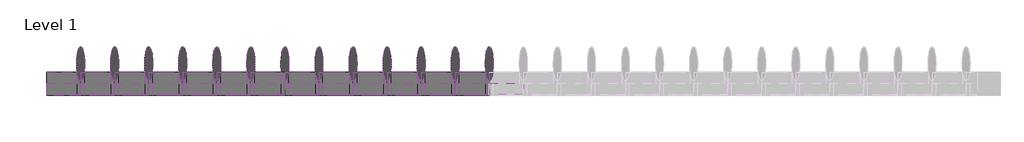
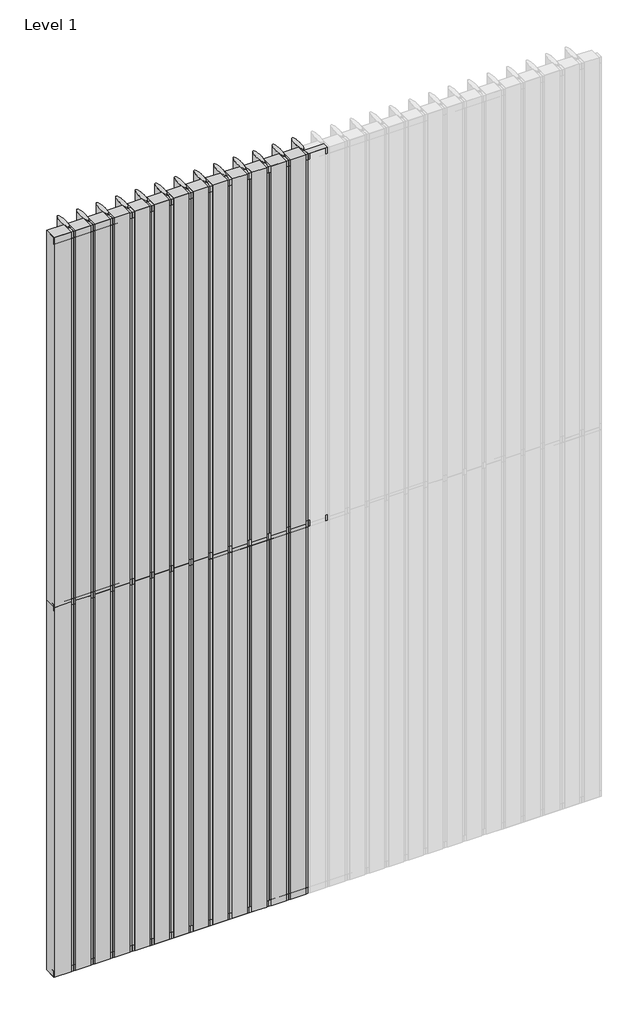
# One storey, part 1 of 3: 67 members, 52 plates.
"""IFC4 building model written with IfcOpenShell, lengths in millimetres."""

from ifc_helpers import new_model, si_unit, origin, place, context, project, spatial, transform, mapped, element, save
from components import rectangular_mullion_822d50ae, rectangular_mullion_6265e8b1, rectangular_mullion_64cc6fdd, rectangular_mullion_eb4a5411, empty_system_panel_empty_b0baf43e, empty_system_panel_empty_d245318e, empty_system_panel_empty_64907904

model = new_model("IFC4")

# Units and contexts
model_context = context("Model", 3, world=origin())
ifc_project = project(units=[si_unit("LENGTHUNIT", "METRE", prefix="MILLI")], contexts=[model_context])

# Site, building, storey
site = spatial("IfcSite", under=ifc_project)
building = spatial("IfcBuilding", under=site)
storey = spatial("IfcBuildingStorey", under=building, Name="Level 1", Elevation=0.0)

# Members
placement = place(None, origin())
rectangular_mullion_shape = rectangular_mullion_822d50ae(model_context)
element("IfcMember", 1, ObjectType="Rectangular Mullion : RSen_21_CWM_blade - 150 ellips - 0°_gen_duco projects", at=placement, inside=storey, context=model_context, shape_type="MappedRepresentation", body=[
    mapped(rectangular_mullion_shape, transform((1950.0, 3000.0, 0.0), x_axis=(-1.0, 0.0, 0.0), y_axis=(0.0, 1.0, 0.0), z_axis=(0.0, 0.0, -1.0))),
])
element("IfcMember", 2, ObjectType="Rectangular Mullion : RSen_21_CWM_blade - 150 ellips - 0°_gen_duco projects", at=placement, inside=storey, context=model_context, shape_type="MappedRepresentation", body=[
    mapped(rectangular_mullion_shape, transform((1800.0, 3000.0, 0.0), x_axis=(-1.0, 0.0, 0.0), y_axis=(0.0, 1.0, 0.0), z_axis=(0.0, 0.0, -1.0))),
])
element("IfcMember", 3, ObjectType="Rectangular Mullion : RSen_21_CWM_blade - 150 ellips - 0°_gen_duco projects", at=placement, inside=storey, context=model_context, shape_type="MappedRepresentation", body=[
    mapped(rectangular_mullion_shape, transform((1650.0, 3000.0, 0.0), x_axis=(-1.0, 0.0, 0.0), y_axis=(0.0, 1.0, 0.0), z_axis=(0.0, 0.0, -1.0))),
])
element("IfcMember", 4, ObjectType="Rectangular Mullion : RSen_21_CWM_blade - 150 ellips - 0°_gen_duco projects", at=placement, inside=storey, context=model_context, shape_type="MappedRepresentation", body=[
    mapped(rectangular_mullion_shape, transform((1500.0, 3000.0, 0.0), x_axis=(-1.0, 0.0, 0.0), y_axis=(0.0, 1.0, 0.0), z_axis=(0.0, 0.0, -1.0))),
])
element("IfcMember", 5, ObjectType="Rectangular Mullion : RSen_21_CWM_blade - 150 ellips - 0°_gen_duco projects", at=placement, inside=storey, context=model_context, shape_type="MappedRepresentation", body=[
    mapped(rectangular_mullion_shape, transform((1350.0, 3000.0, 0.0), x_axis=(-1.0, 0.0, 0.0), y_axis=(0.0, 1.0, 0.0), z_axis=(0.0, 0.0, -1.0))),
])
element("IfcMember", 6, ObjectType="Rectangular Mullion : RSen_21_CWM_blade - 150 ellips - 0°_gen_duco projects", at=placement, inside=storey, context=model_context, shape_type="MappedRepresentation", body=[
    mapped(rectangular_mullion_shape, transform((1200.0, 3000.0, 0.0), x_axis=(-1.0, 0.0, 0.0), y_axis=(0.0, 1.0, 0.0), z_axis=(0.0, 0.0, -1.0))),
])
element("IfcMember", 7, ObjectType="Rectangular Mullion : RSen_21_CWM_blade - 150 ellips - 0°_gen_duco projects", at=placement, inside=storey, context=model_context, shape_type="MappedRepresentation", body=[
    mapped(rectangular_mullion_shape, transform((1050.0, 3000.0, 0.0), x_axis=(-1.0, 0.0, 0.0), y_axis=(0.0, 1.0, 0.0), z_axis=(0.0, 0.0, -1.0))),
])
element("IfcMember", 8, ObjectType="Rectangular Mullion : RSen_21_CWM_blade - 150 ellips - 0°_gen_duco projects", at=placement, inside=storey, context=model_context, shape_type="MappedRepresentation", body=[
    mapped(rectangular_mullion_shape, transform((900.0, 3000.0, 0.0), x_axis=(-1.0, 0.0, 0.0), y_axis=(0.0, 1.0, 0.0), z_axis=(0.0, 0.0, -1.0))),
])
element("IfcMember", 9, ObjectType="Rectangular Mullion : RSen_21_CWM_blade - 150 ellips - 0°_gen_duco projects", at=placement, inside=storey, context=model_context, shape_type="MappedRepresentation", body=[
    mapped(rectangular_mullion_shape, transform((750.0, 3000.0, 0.0), x_axis=(-1.0, 0.0, 0.0), y_axis=(0.0, 1.0, 0.0), z_axis=(0.0, 0.0, -1.0))),
])
element("IfcMember", 10, ObjectType="Rectangular Mullion : RSen_21_CWM_blade - 150 ellips - 0°_gen_duco projects", at=placement, inside=storey, context=model_context, shape_type="MappedRepresentation", body=[
    mapped(rectangular_mullion_shape, transform((600.0, 3000.0, 0.0), x_axis=(-1.0, 0.0, 0.0), y_axis=(0.0, 1.0, 0.0), z_axis=(0.0, 0.0, -1.0))),
])
element("IfcMember", 11, ObjectType="Rectangular Mullion : RSen_21_CWM_blade - 150 ellips - 0°_gen_duco projects", at=placement, inside=storey, context=model_context, shape_type="MappedRepresentation", body=[
    mapped(rectangular_mullion_shape, transform((450.0, 3000.0, 0.0), x_axis=(-1.0, 0.0, 0.0), y_axis=(0.0, 1.0, 0.0), z_axis=(0.0, 0.0, -1.0))),
])
element("IfcMember", 12, ObjectType="Rectangular Mullion : RSen_21_CWM_blade - 150 ellips - 0°_gen_duco projects", at=placement, inside=storey, context=model_context, shape_type="MappedRepresentation", body=[
    mapped(rectangular_mullion_shape, transform((300.0, 3000.0, 0.0), x_axis=(-1.0, 0.0, 0.0), y_axis=(0.0, 1.0, 0.0), z_axis=(0.0, 0.0, -1.0))),
])
element("IfcMember", 13, ObjectType="Rectangular Mullion : RSen_21_CWM_blade - 150 ellips - 0°_gen_duco projects", at=placement, inside=storey, context=model_context, shape_type="MappedRepresentation", body=[
    mapped(rectangular_mullion_shape, transform((150.0, 3000.0, 0.0), x_axis=(-1.0, 0.0, 0.0), y_axis=(0.0, 1.0, 0.0), z_axis=(0.0, 0.0, -1.0))),
])
element("IfcMember", 14, ObjectType="Rectangular Mullion : RSen_21_CWM_blade - 150 ellips - 0°_gen_duco projects", at=placement, inside=storey, context=model_context, shape_type="MappedRepresentation", body=[
    mapped(rectangular_mullion_shape, transform((1950.0, 3000.0, 3000.0), x_axis=(-1.0, 0.0, 0.0), y_axis=(0.0, 1.0, 0.0), z_axis=(0.0, 0.0, -1.0))),
])
element("IfcMember", 15, ObjectType="Rectangular Mullion : RSen_21_CWM_blade - 150 ellips - 0°_gen_duco projects", at=placement, inside=storey, context=model_context, shape_type="MappedRepresentation", body=[
    mapped(rectangular_mullion_shape, transform((1800.0, 3000.0, 3000.0), x_axis=(-1.0, 0.0, 0.0), y_axis=(0.0, 1.0, 0.0), z_axis=(0.0, 0.0, -1.0))),
])
element("IfcMember", 16, ObjectType="Rectangular Mullion : RSen_21_CWM_blade - 150 ellips - 0°_gen_duco projects", at=placement, inside=storey, context=model_context, shape_type="MappedRepresentation", body=[
    mapped(rectangular_mullion_shape, transform((1650.0, 3000.0, 3000.0), x_axis=(-1.0, 0.0, 0.0), y_axis=(0.0, 1.0, 0.0), z_axis=(0.0, 0.0, -1.0))),
])
element("IfcMember", 17, ObjectType="Rectangular Mullion : RSen_21_CWM_blade - 150 ellips - 0°_gen_duco projects", at=placement, inside=storey, context=model_context, shape_type="MappedRepresentation", body=[
    mapped(rectangular_mullion_shape, transform((1500.0, 3000.0, 3000.0), x_axis=(-1.0, 0.0, 0.0), y_axis=(0.0, 1.0, 0.0), z_axis=(0.0, 0.0, -1.0))),
])
element("IfcMember", 18, ObjectType="Rectangular Mullion : RSen_21_CWM_blade - 150 ellips - 0°_gen_duco projects", at=placement, inside=storey, context=model_context, shape_type="MappedRepresentation", body=[
    mapped(rectangular_mullion_shape, transform((1350.0, 3000.0, 3000.0), x_axis=(-1.0, 0.0, 0.0), y_axis=(0.0, 1.0, 0.0), z_axis=(0.0, 0.0, -1.0))),
])
element("IfcMember", 19, ObjectType="Rectangular Mullion : RSen_21_CWM_blade - 150 ellips - 0°_gen_duco projects", at=placement, inside=storey, context=model_context, shape_type="MappedRepresentation", body=[
    mapped(rectangular_mullion_shape, transform((1200.0, 3000.0, 3000.0), x_axis=(-1.0, 0.0, 0.0), y_axis=(0.0, 1.0, 0.0), z_axis=(0.0, 0.0, -1.0))),
])
element("IfcMember", 20, ObjectType="Rectangular Mullion : RSen_21_CWM_blade - 150 ellips - 0°_gen_duco projects", at=placement, inside=storey, context=model_context, shape_type="MappedRepresentation", body=[
    mapped(rectangular_mullion_shape, transform((1050.0, 3000.0, 3000.0), x_axis=(-1.0, 0.0, 0.0), y_axis=(0.0, 1.0, 0.0), z_axis=(0.0, 0.0, -1.0))),
])
element("IfcMember", 21, ObjectType="Rectangular Mullion : RSen_21_CWM_blade - 150 ellips - 0°_gen_duco projects", at=placement, inside=storey, context=model_context, shape_type="MappedRepresentation", body=[
    mapped(rectangular_mullion_shape, transform((900.0, 3000.0, 3000.0), x_axis=(-1.0, 0.0, 0.0), y_axis=(0.0, 1.0, 0.0), z_axis=(0.0, 0.0, -1.0))),
])
element("IfcMember", 22, ObjectType="Rectangular Mullion : RSen_21_CWM_blade - 150 ellips - 0°_gen_duco projects", at=placement, inside=storey, context=model_context, shape_type="MappedRepresentation", body=[
    mapped(rectangular_mullion_shape, transform((750.0, 3000.0, 3000.0), x_axis=(-1.0, 0.0, 0.0), y_axis=(0.0, 1.0, 0.0), z_axis=(0.0, 0.0, -1.0))),
])
element("IfcMember", 23, ObjectType="Rectangular Mullion : RSen_21_CWM_blade - 150 ellips - 0°_gen_duco projects", at=placement, inside=storey, context=model_context, shape_type="MappedRepresentation", body=[
    mapped(rectangular_mullion_shape, transform((600.0, 3000.0, 3000.0), x_axis=(-1.0, 0.0, 0.0), y_axis=(0.0, 1.0, 0.0), z_axis=(0.0, 0.0, -1.0))),
])
element("IfcMember", 24, ObjectType="Rectangular Mullion : RSen_21_CWM_blade - 150 ellips - 0°_gen_duco projects", at=placement, inside=storey, context=model_context, shape_type="MappedRepresentation", body=[
    mapped(rectangular_mullion_shape, transform((450.0, 3000.0, 3000.0), x_axis=(-1.0, 0.0, 0.0), y_axis=(0.0, 1.0, 0.0), z_axis=(0.0, 0.0, -1.0))),
])
element("IfcMember", 25, ObjectType="Rectangular Mullion : RSen_21_CWM_blade - 150 ellips - 0°_gen_duco projects", at=placement, inside=storey, context=model_context, shape_type="MappedRepresentation", body=[
    mapped(rectangular_mullion_shape, transform((300.0, 3000.0, 3000.0), x_axis=(-1.0, 0.0, 0.0), y_axis=(0.0, 1.0, 0.0), z_axis=(0.0, 0.0, -1.0))),
])
element("IfcMember", 26, ObjectType="Rectangular Mullion : RSen_21_CWM_blade - 150 ellips - 0°_gen_duco projects", at=placement, inside=storey, context=model_context, shape_type="MappedRepresentation", body=[
    mapped(rectangular_mullion_shape, transform((150.0, 3000.0, 3000.0), x_axis=(-1.0, 0.0, 0.0), y_axis=(0.0, 1.0, 0.0), z_axis=(0.0, 0.0, -1.0))),
])
rectangular_mullion_2_shape = rectangular_mullion_6265e8b1(model_context)
element("IfcMember", 27, ObjectType="Rectangular Mullion : RSen_21_CWM_support profile 50x50 - left_gen_duco projects", at=placement, inside=storey, context=model_context, shape_type="MappedRepresentation", body=[
    mapped(rectangular_mullion_2_shape, transform((0.0, 3000.0, 6000.0), x_axis=(0.0, 0.0, 1.0), y_axis=(0.0, 1.0, 0.0), z_axis=(-1.0, 0.0, 0.0))),
])
element("IfcMember", 28, ObjectType="Rectangular Mullion : RSen_21_CWM_support profile 50x50 - left_gen_duco projects", at=placement, inside=storey, context=model_context, shape_type="MappedRepresentation", body=[
    mapped(rectangular_mullion_2_shape, transform((1950.0, 3000.0, 6000.0), x_axis=(0.0, 0.0, 1.0), y_axis=(0.0, 1.0, 0.0), z_axis=(-1.0, 0.0, 0.0))),
])
element("IfcMember", 29, ObjectType="Rectangular Mullion : RSen_21_CWM_support profile 50x50 - left_gen_duco projects", at=placement, inside=storey, context=model_context, shape_type="MappedRepresentation", body=[
    mapped(rectangular_mullion_2_shape, transform((1800.0, 3000.0, 6000.0), x_axis=(0.0, 0.0, 1.0), y_axis=(0.0, 1.0, 0.0), z_axis=(-1.0, 0.0, 0.0))),
])
element("IfcMember", 30, ObjectType="Rectangular Mullion : RSen_21_CWM_support profile 50x50 - left_gen_duco projects", at=placement, inside=storey, context=model_context, shape_type="MappedRepresentation", body=[
    mapped(rectangular_mullion_2_shape, transform((1650.0, 3000.0, 6000.0), x_axis=(0.0, 0.0, 1.0), y_axis=(0.0, 1.0, 0.0), z_axis=(-1.0, 0.0, 0.0))),
])
element("IfcMember", 31, ObjectType="Rectangular Mullion : RSen_21_CWM_support profile 50x50 - left_gen_duco projects", at=placement, inside=storey, context=model_context, shape_type="MappedRepresentation", body=[
    mapped(rectangular_mullion_2_shape, transform((1500.0, 3000.0, 6000.0), x_axis=(0.0, 0.0, 1.0), y_axis=(0.0, 1.0, 0.0), z_axis=(-1.0, 0.0, 0.0))),
])
element("IfcMember", 32, ObjectType="Rectangular Mullion : RSen_21_CWM_support profile 50x50 - left_gen_duco projects", at=placement, inside=storey, context=model_context, shape_type="MappedRepresentation", body=[
    mapped(rectangular_mullion_2_shape, transform((1350.0, 3000.0, 6000.0), x_axis=(0.0, 0.0, 1.0), y_axis=(0.0, 1.0, 0.0), z_axis=(-1.0, 0.0, 0.0))),
])
element("IfcMember", 33, ObjectType="Rectangular Mullion : RSen_21_CWM_support profile 50x50 - left_gen_duco projects", at=placement, inside=storey, context=model_context, shape_type="MappedRepresentation", body=[
    mapped(rectangular_mullion_2_shape, transform((1200.0, 3000.0, 6000.0), x_axis=(0.0, 0.0, 1.0), y_axis=(0.0, 1.0, 0.0), z_axis=(-1.0, 0.0, 0.0))),
])
element("IfcMember", 34, ObjectType="Rectangular Mullion : RSen_21_CWM_support profile 50x50 - left_gen_duco projects", at=placement, inside=storey, context=model_context, shape_type="MappedRepresentation", body=[
    mapped(rectangular_mullion_2_shape, transform((1050.0, 3000.0, 6000.0), x_axis=(0.0, 0.0, 1.0), y_axis=(0.0, 1.0, 0.0), z_axis=(-1.0, 0.0, 0.0))),
])
element("IfcMember", 35, ObjectType="Rectangular Mullion : RSen_21_CWM_support profile 50x50 - left_gen_duco projects", at=placement, inside=storey, context=model_context, shape_type="MappedRepresentation", body=[
    mapped(rectangular_mullion_2_shape, transform((900.0, 3000.0, 6000.0), x_axis=(0.0, 0.0, 1.0), y_axis=(0.0, 1.0, 0.0), z_axis=(-1.0, 0.0, 0.0))),
])
element("IfcMember", 36, ObjectType="Rectangular Mullion : RSen_21_CWM_support profile 50x50 - left_gen_duco projects", at=placement, inside=storey, context=model_context, shape_type="MappedRepresentation", body=[
    mapped(rectangular_mullion_2_shape, transform((750.0, 3000.0, 6000.0), x_axis=(0.0, 0.0, 1.0), y_axis=(0.0, 1.0, 0.0), z_axis=(-1.0, 0.0, 0.0))),
])
element("IfcMember", 37, ObjectType="Rectangular Mullion : RSen_21_CWM_support profile 50x50 - left_gen_duco projects", at=placement, inside=storey, context=model_context, shape_type="MappedRepresentation", body=[
    mapped(rectangular_mullion_2_shape, transform((600.0, 3000.0, 6000.0), x_axis=(0.0, 0.0, 1.0), y_axis=(0.0, 1.0, 0.0), z_axis=(-1.0, 0.0, 0.0))),
])
element("IfcMember", 38, ObjectType="Rectangular Mullion : RSen_21_CWM_support profile 50x50 - left_gen_duco projects", at=placement, inside=storey, context=model_context, shape_type="MappedRepresentation", body=[
    mapped(rectangular_mullion_2_shape, transform((450.0, 3000.0, 6000.0), x_axis=(0.0, 0.0, 1.0), y_axis=(0.0, 1.0, 0.0), z_axis=(-1.0, 0.0, 0.0))),
])
element("IfcMember", 39, ObjectType="Rectangular Mullion : RSen_21_CWM_support profile 50x50 - left_gen_duco projects", at=placement, inside=storey, context=model_context, shape_type="MappedRepresentation", body=[
    mapped(rectangular_mullion_2_shape, transform((300.0, 3000.0, 6000.0), x_axis=(0.0, 0.0, 1.0), y_axis=(0.0, 1.0, 0.0), z_axis=(-1.0, 0.0, 0.0))),
])
element("IfcMember", 40, ObjectType="Rectangular Mullion : RSen_21_CWM_support profile 50x50 - left_gen_duco projects", at=placement, inside=storey, context=model_context, shape_type="MappedRepresentation", body=[
    mapped(rectangular_mullion_2_shape, transform((150.0, 3000.0, 6000.0), x_axis=(0.0, 0.0, 1.0), y_axis=(0.0, 1.0, 0.0), z_axis=(-1.0, 0.0, 0.0))),
])
rectangular_mullion_3_shape = rectangular_mullion_64cc6fdd(model_context)
element("IfcMember", 41, ObjectType="Rectangular Mullion : RSen_21_CWM_support profile 50x50 - right_gen_duco projects", at=placement, inside=storey, context=model_context, shape_type="MappedRepresentation", body=[
    mapped(rectangular_mullion_3_shape, transform((1950.0, 3000.0, 0.0), x_axis=(0.0, 0.0, -1.0), y_axis=(0.0, 1.0, 0.0), z_axis=(1.0, 0.0, 0.0))),
])
element("IfcMember", 42, ObjectType="Rectangular Mullion : RSen_21_CWM_support profile 50x50 - right_gen_duco projects", at=placement, inside=storey, context=model_context, shape_type="MappedRepresentation", body=[
    mapped(rectangular_mullion_3_shape, transform((1800.0, 3000.0, 0.0), x_axis=(0.0, 0.0, -1.0), y_axis=(0.0, 1.0, 0.0), z_axis=(1.0, 0.0, 0.0))),
])
element("IfcMember", 43, ObjectType="Rectangular Mullion : RSen_21_CWM_support profile 50x50 - right_gen_duco projects", at=placement, inside=storey, context=model_context, shape_type="MappedRepresentation", body=[
    mapped(rectangular_mullion_3_shape, transform((1650.0, 3000.0, 0.0), x_axis=(0.0, 0.0, -1.0), y_axis=(0.0, 1.0, 0.0), z_axis=(1.0, 0.0, 0.0))),
])
element("IfcMember", 44, ObjectType="Rectangular Mullion : RSen_21_CWM_support profile 50x50 - right_gen_duco projects", at=placement, inside=storey, context=model_context, shape_type="MappedRepresentation", body=[
    mapped(rectangular_mullion_3_shape, transform((1500.0, 3000.0, 0.0), x_axis=(0.0, 0.0, -1.0), y_axis=(0.0, 1.0, 0.0), z_axis=(1.0, 0.0, 0.0))),
])
element("IfcMember", 45, ObjectType="Rectangular Mullion : RSen_21_CWM_support profile 50x50 - right_gen_duco projects", at=placement, inside=storey, context=model_context, shape_type="MappedRepresentation", body=[
    mapped(rectangular_mullion_3_shape, transform((1350.0, 3000.0, 0.0), x_axis=(0.0, 0.0, -1.0), y_axis=(0.0, 1.0, 0.0), z_axis=(1.0, 0.0, 0.0))),
])
element("IfcMember", 46, ObjectType="Rectangular Mullion : RSen_21_CWM_support profile 50x50 - right_gen_duco projects", at=placement, inside=storey, context=model_context, shape_type="MappedRepresentation", body=[
    mapped(rectangular_mullion_3_shape, transform((1200.0, 3000.0, 0.0), x_axis=(0.0, 0.0, -1.0), y_axis=(0.0, 1.0, 0.0), z_axis=(1.0, 0.0, 0.0))),
])
element("IfcMember", 47, ObjectType="Rectangular Mullion : RSen_21_CWM_support profile 50x50 - right_gen_duco projects", at=placement, inside=storey, context=model_context, shape_type="MappedRepresentation", body=[
    mapped(rectangular_mullion_3_shape, transform((1050.0, 3000.0, 0.0), x_axis=(0.0, 0.0, -1.0), y_axis=(0.0, 1.0, 0.0), z_axis=(1.0, 0.0, 0.0))),
])
element("IfcMember", 48, ObjectType="Rectangular Mullion : RSen_21_CWM_support profile 50x50 - right_gen_duco projects", at=placement, inside=storey, context=model_context, shape_type="MappedRepresentation", body=[
    mapped(rectangular_mullion_3_shape, transform((900.0, 3000.0, 0.0), x_axis=(0.0, 0.0, -1.0), y_axis=(0.0, 1.0, 0.0), z_axis=(1.0, 0.0, 0.0))),
])
element("IfcMember", 49, ObjectType="Rectangular Mullion : RSen_21_CWM_support profile 50x50 - right_gen_duco projects", at=placement, inside=storey, context=model_context, shape_type="MappedRepresentation", body=[
    mapped(rectangular_mullion_3_shape, transform((750.0, 3000.0, 0.0), x_axis=(0.0, 0.0, -1.0), y_axis=(0.0, 1.0, 0.0), z_axis=(1.0, 0.0, 0.0))),
])
element("IfcMember", 50, ObjectType="Rectangular Mullion : RSen_21_CWM_support profile 50x50 - right_gen_duco projects", at=placement, inside=storey, context=model_context, shape_type="MappedRepresentation", body=[
    mapped(rectangular_mullion_3_shape, transform((600.0, 3000.0, 0.0), x_axis=(0.0, 0.0, -1.0), y_axis=(0.0, 1.0, 0.0), z_axis=(1.0, 0.0, 0.0))),
])
element("IfcMember", 51, ObjectType="Rectangular Mullion : RSen_21_CWM_support profile 50x50 - right_gen_duco projects", at=placement, inside=storey, context=model_context, shape_type="MappedRepresentation", body=[
    mapped(rectangular_mullion_3_shape, transform((450.0, 3000.0, 0.0), x_axis=(0.0, 0.0, -1.0), y_axis=(0.0, 1.0, 0.0), z_axis=(1.0, 0.0, 0.0))),
])
element("IfcMember", 52, ObjectType="Rectangular Mullion : RSen_21_CWM_support profile 50x50 - right_gen_duco projects", at=placement, inside=storey, context=model_context, shape_type="MappedRepresentation", body=[
    mapped(rectangular_mullion_3_shape, transform((300.0, 3000.0, 0.0), x_axis=(0.0, 0.0, -1.0), y_axis=(0.0, 1.0, 0.0), z_axis=(1.0, 0.0, 0.0))),
])
element("IfcMember", 53, ObjectType="Rectangular Mullion : RSen_21_CWM_support profile 50x50 - right_gen_duco projects", at=placement, inside=storey, context=model_context, shape_type="MappedRepresentation", body=[
    mapped(rectangular_mullion_3_shape, transform((150.0, 3000.0, 0.0), x_axis=(0.0, 0.0, -1.0), y_axis=(0.0, 1.0, 0.0), z_axis=(1.0, 0.0, 0.0))),
])
rectangular_mullion_4_shape = rectangular_mullion_eb4a5411(model_context)
element("IfcMember", 54, ObjectType="Rectangular Mullion : RSen_21_CWM_support profile 50x50_gen_duco projects", at=placement, inside=storey, context=model_context, shape_type="MappedRepresentation", body=[
    mapped(rectangular_mullion_4_shape, transform((1950.0, 3000.0, 3000.0), x_axis=(0.0, 0.0, 1.0), y_axis=(0.0, 1.0, 0.0), z_axis=(-1.0, 0.0, 0.0))),
])
element("IfcMember", 55, ObjectType="Rectangular Mullion : RSen_21_CWM_support profile 50x50_gen_duco projects", at=placement, inside=storey, context=model_context, shape_type="MappedRepresentation", body=[
    mapped(rectangular_mullion_4_shape, transform((1800.0, 3000.0, 3000.0), x_axis=(0.0, 0.0, 1.0), y_axis=(0.0, 1.0, 0.0), z_axis=(-1.0, 0.0, 0.0))),
])
element("IfcMember", 56, ObjectType="Rectangular Mullion : RSen_21_CWM_support profile 50x50_gen_duco projects", at=placement, inside=storey, context=model_context, shape_type="MappedRepresentation", body=[
    mapped(rectangular_mullion_4_shape, transform((1650.0, 3000.0, 3000.0), x_axis=(0.0, 0.0, 1.0), y_axis=(0.0, 1.0, 0.0), z_axis=(-1.0, 0.0, 0.0))),
])
element("IfcMember", 57, ObjectType="Rectangular Mullion : RSen_21_CWM_support profile 50x50_gen_duco projects", at=placement, inside=storey, context=model_context, shape_type="MappedRepresentation", body=[
    mapped(rectangular_mullion_4_shape, transform((1500.0, 3000.0, 3000.0), x_axis=(0.0, 0.0, 1.0), y_axis=(0.0, 1.0, 0.0), z_axis=(-1.0, 0.0, 0.0))),
])
element("IfcMember", 58, ObjectType="Rectangular Mullion : RSen_21_CWM_support profile 50x50_gen_duco projects", at=placement, inside=storey, context=model_context, shape_type="MappedRepresentation", body=[
    mapped(rectangular_mullion_4_shape, transform((1350.0, 3000.0, 3000.0), x_axis=(0.0, 0.0, 1.0), y_axis=(0.0, 1.0, 0.0), z_axis=(-1.0, 0.0, 0.0))),
])
element("IfcMember", 59, ObjectType="Rectangular Mullion : RSen_21_CWM_support profile 50x50_gen_duco projects", at=placement, inside=storey, context=model_context, shape_type="MappedRepresentation", body=[
    mapped(rectangular_mullion_4_shape, transform((1200.0, 3000.0, 3000.0), x_axis=(0.0, 0.0, 1.0), y_axis=(0.0, 1.0, 0.0), z_axis=(-1.0, 0.0, 0.0))),
])
element("IfcMember", 60, ObjectType="Rectangular Mullion : RSen_21_CWM_support profile 50x50_gen_duco projects", at=placement, inside=storey, context=model_context, shape_type="MappedRepresentation", body=[
    mapped(rectangular_mullion_4_shape, transform((1050.0, 3000.0, 3000.0), x_axis=(0.0, 0.0, 1.0), y_axis=(0.0, 1.0, 0.0), z_axis=(-1.0, 0.0, 0.0))),
])
element("IfcMember", 61, ObjectType="Rectangular Mullion : RSen_21_CWM_support profile 50x50_gen_duco projects", at=placement, inside=storey, context=model_context, shape_type="MappedRepresentation", body=[
    mapped(rectangular_mullion_4_shape, transform((900.0, 3000.0, 3000.0), x_axis=(0.0, 0.0, 1.0), y_axis=(0.0, 1.0, 0.0), z_axis=(-1.0, 0.0, 0.0))),
])
element("IfcMember", 62, ObjectType="Rectangular Mullion : RSen_21_CWM_support profile 50x50_gen_duco projects", at=placement, inside=storey, context=model_context, shape_type="MappedRepresentation", body=[
    mapped(rectangular_mullion_4_shape, transform((750.0, 3000.0, 3000.0), x_axis=(0.0, 0.0, 1.0), y_axis=(0.0, 1.0, 0.0), z_axis=(-1.0, 0.0, 0.0))),
])
element("IfcMember", 63, ObjectType="Rectangular Mullion : RSen_21_CWM_support profile 50x50_gen_duco projects", at=placement, inside=storey, context=model_context, shape_type="MappedRepresentation", body=[
    mapped(rectangular_mullion_4_shape, transform((600.0, 3000.0, 3000.0), x_axis=(0.0, 0.0, 1.0), y_axis=(0.0, 1.0, 0.0), z_axis=(-1.0, 0.0, 0.0))),
])
element("IfcMember", 64, ObjectType="Rectangular Mullion : RSen_21_CWM_support profile 50x50_gen_duco projects", at=placement, inside=storey, context=model_context, shape_type="MappedRepresentation", body=[
    mapped(rectangular_mullion_4_shape, transform((450.0, 3000.0, 3000.0), x_axis=(0.0, 0.0, 1.0), y_axis=(0.0, 1.0, 0.0), z_axis=(-1.0, 0.0, 0.0))),
])
element("IfcMember", 65, ObjectType="Rectangular Mullion : RSen_21_CWM_support profile 50x50_gen_duco projects", at=placement, inside=storey, context=model_context, shape_type="MappedRepresentation", body=[
    mapped(rectangular_mullion_4_shape, transform((300.0, 3000.0, 3000.0), x_axis=(0.0, 0.0, 1.0), y_axis=(0.0, 1.0, 0.0), z_axis=(-1.0, 0.0, 0.0))),
])
element("IfcMember", 66, ObjectType="Rectangular Mullion : RSen_21_CWM_support profile 50x50_gen_duco projects", at=placement, inside=storey, context=model_context, shape_type="MappedRepresentation", body=[
    mapped(rectangular_mullion_4_shape, transform((150.0, 3000.0, 3000.0), x_axis=(0.0, 0.0, 1.0), y_axis=(0.0, 1.0, 0.0), z_axis=(-1.0, 0.0, 0.0))),
])
element("IfcMember", 67, ObjectType="Rectangular Mullion : RSen_21_CWM_support profile 50x50_gen_duco projects", at=placement, inside=storey, context=model_context, shape_type="MappedRepresentation", body=[
    mapped(rectangular_mullion_4_shape, transform((0.0, 3000.0, 3000.0), x_axis=(0.0, 0.0, 1.0), y_axis=(0.0, 1.0, 0.0), z_axis=(-1.0, 0.0, 0.0))),
])

# Plates
empty_system_panel_empty_shape = empty_system_panel_empty_b0baf43e(model_context)
element("IfcPlate", 68, ObjectType="Empty System Panel : Empty", at=placement, inside=storey, context=model_context, shape_type="MappedRepresentation", body=[
    mapped(empty_system_panel_empty_shape, transform((66.25, 3000.0, 0.0), x_axis=(-1.0, 0.0, 0.0), y_axis=(0.0, -1.0, 0.0), z_axis=(0.0, 0.0, 1.0))),
])
element("IfcPlate", 69, ObjectType="Empty System Panel : Empty", at=placement, inside=storey, context=model_context, shape_type="MappedRepresentation", body=[
    mapped(empty_system_panel_empty_shape, transform((66.25, 3000.0, 3000.0), x_axis=(-1.0, 0.0, 0.0), y_axis=(0.0, -1.0, 0.0), z_axis=(0.0, 0.0, 1.0))),
])
empty_system_panel_empty_2_shape = empty_system_panel_empty_d245318e(model_context)
element("IfcPlate", 70, ObjectType="Empty System Panel : Empty", at=placement, inside=storey, context=model_context, shape_type="MappedRepresentation", body=[
    mapped(empty_system_panel_empty_2_shape, transform((1875.0, 3000.0, 0.0), x_axis=(-1.0, 0.0, 0.0), y_axis=(0.0, -1.0, 0.0), z_axis=(0.0, 0.0, 1.0))),
])
element("IfcPlate", 71, ObjectType="Empty System Panel : Empty", at=placement, inside=storey, context=model_context, shape_type="MappedRepresentation", body=[
    mapped(empty_system_panel_empty_2_shape, transform((1725.0, 3000.0, 0.0), x_axis=(-1.0, 0.0, 0.0), y_axis=(0.0, -1.0, 0.0), z_axis=(0.0, 0.0, 1.0))),
])
element("IfcPlate", 72, ObjectType="Empty System Panel : Empty", at=placement, inside=storey, context=model_context, shape_type="MappedRepresentation", body=[
    mapped(empty_system_panel_empty_2_shape, transform((1575.0, 3000.0, 0.0), x_axis=(-1.0, 0.0, 0.0), y_axis=(0.0, -1.0, 0.0), z_axis=(0.0, 0.0, 1.0))),
])
element("IfcPlate", 73, ObjectType="Empty System Panel : Empty", at=placement, inside=storey, context=model_context, shape_type="MappedRepresentation", body=[
    mapped(empty_system_panel_empty_2_shape, transform((1425.0, 3000.0, 0.0), x_axis=(-1.0, 0.0, 0.0), y_axis=(0.0, -1.0, 0.0), z_axis=(0.0, 0.0, 1.0))),
])
element("IfcPlate", 74, ObjectType="Empty System Panel : Empty", at=placement, inside=storey, context=model_context, shape_type="MappedRepresentation", body=[
    mapped(empty_system_panel_empty_2_shape, transform((1275.0, 3000.0, 0.0), x_axis=(-1.0, 0.0, 0.0), y_axis=(0.0, -1.0, 0.0), z_axis=(0.0, 0.0, 1.0))),
])
element("IfcPlate", 75, ObjectType="Empty System Panel : Empty", at=placement, inside=storey, context=model_context, shape_type="MappedRepresentation", body=[
    mapped(empty_system_panel_empty_2_shape, transform((1125.0, 3000.0, 0.0), x_axis=(-1.0, 0.0, 0.0), y_axis=(0.0, -1.0, 0.0), z_axis=(0.0, 0.0, 1.0))),
])
element("IfcPlate", 76, ObjectType="Empty System Panel : Empty", at=placement, inside=storey, context=model_context, shape_type="MappedRepresentation", body=[
    mapped(empty_system_panel_empty_2_shape, transform((975.0, 3000.0, 0.0), x_axis=(-1.0, 0.0, 0.0), y_axis=(0.0, -1.0, 0.0), z_axis=(0.0, 0.0, 1.0))),
])
element("IfcPlate", 77, ObjectType="Empty System Panel : Empty", at=placement, inside=storey, context=model_context, shape_type="MappedRepresentation", body=[
    mapped(empty_system_panel_empty_2_shape, transform((825.0, 3000.0, 0.0), x_axis=(-1.0, 0.0, 0.0), y_axis=(0.0, -1.0, 0.0), z_axis=(0.0, 0.0, 1.0))),
])
element("IfcPlate", 78, ObjectType="Empty System Panel : Empty", at=placement, inside=storey, context=model_context, shape_type="MappedRepresentation", body=[
    mapped(empty_system_panel_empty_2_shape, transform((675.0, 3000.0, 0.0), x_axis=(-1.0, 0.0, 0.0), y_axis=(0.0, -1.0, 0.0), z_axis=(0.0, 0.0, 1.0))),
])
element("IfcPlate", 79, ObjectType="Empty System Panel : Empty", at=placement, inside=storey, context=model_context, shape_type="MappedRepresentation", body=[
    mapped(empty_system_panel_empty_2_shape, transform((525.0, 3000.0, 0.0), x_axis=(-1.0, 0.0, 0.0), y_axis=(0.0, -1.0, 0.0), z_axis=(0.0, 0.0, 1.0))),
])
element("IfcPlate", 80, ObjectType="Empty System Panel : Empty", at=placement, inside=storey, context=model_context, shape_type="MappedRepresentation", body=[
    mapped(empty_system_panel_empty_2_shape, transform((375.0, 3000.0, 0.0), x_axis=(-1.0, 0.0, 0.0), y_axis=(0.0, -1.0, 0.0), z_axis=(0.0, 0.0, 1.0))),
])
element("IfcPlate", 81, ObjectType="Empty System Panel : Empty", at=placement, inside=storey, context=model_context, shape_type="MappedRepresentation", body=[
    mapped(empty_system_panel_empty_2_shape, transform((225.0, 3000.0, 0.0), x_axis=(-1.0, 0.0, 0.0), y_axis=(0.0, -1.0, 0.0), z_axis=(0.0, 0.0, 1.0))),
])
element("IfcPlate", 82, ObjectType="Empty System Panel : Empty", at=placement, inside=storey, context=model_context, shape_type="MappedRepresentation", body=[
    mapped(empty_system_panel_empty_2_shape, transform((1875.0, 3000.0, 3000.0), x_axis=(-1.0, 0.0, 0.0), y_axis=(0.0, -1.0, 0.0), z_axis=(0.0, 0.0, 1.0))),
])
element("IfcPlate", 83, ObjectType="Empty System Panel : Empty", at=placement, inside=storey, context=model_context, shape_type="MappedRepresentation", body=[
    mapped(empty_system_panel_empty_2_shape, transform((1725.0, 3000.0, 3000.0), x_axis=(-1.0, 0.0, 0.0), y_axis=(0.0, -1.0, 0.0), z_axis=(0.0, 0.0, 1.0))),
])
element("IfcPlate", 84, ObjectType="Empty System Panel : Empty", at=placement, inside=storey, context=model_context, shape_type="MappedRepresentation", body=[
    mapped(empty_system_panel_empty_2_shape, transform((1575.0, 3000.0, 3000.0), x_axis=(-1.0, 0.0, 0.0), y_axis=(0.0, -1.0, 0.0), z_axis=(0.0, 0.0, 1.0))),
])
element("IfcPlate", 85, ObjectType="Empty System Panel : Empty", at=placement, inside=storey, context=model_context, shape_type="MappedRepresentation", body=[
    mapped(empty_system_panel_empty_2_shape, transform((1425.0, 3000.0, 3000.0), x_axis=(-1.0, 0.0, 0.0), y_axis=(0.0, -1.0, 0.0), z_axis=(0.0, 0.0, 1.0))),
])
element("IfcPlate", 86, ObjectType="Empty System Panel : Empty", at=placement, inside=storey, context=model_context, shape_type="MappedRepresentation", body=[
    mapped(empty_system_panel_empty_2_shape, transform((1275.0, 3000.0, 3000.0), x_axis=(-1.0, 0.0, 0.0), y_axis=(0.0, -1.0, 0.0), z_axis=(0.0, 0.0, 1.0))),
])
element("IfcPlate", 87, ObjectType="Empty System Panel : Empty", at=placement, inside=storey, context=model_context, shape_type="MappedRepresentation", body=[
    mapped(empty_system_panel_empty_2_shape, transform((1125.0, 3000.0, 3000.0), x_axis=(-1.0, 0.0, 0.0), y_axis=(0.0, -1.0, 0.0), z_axis=(0.0, 0.0, 1.0))),
])
element("IfcPlate", 88, ObjectType="Empty System Panel : Empty", at=placement, inside=storey, context=model_context, shape_type="MappedRepresentation", body=[
    mapped(empty_system_panel_empty_2_shape, transform((975.0, 3000.0, 3000.0), x_axis=(-1.0, 0.0, 0.0), y_axis=(0.0, -1.0, 0.0), z_axis=(0.0, 0.0, 1.0))),
])
element("IfcPlate", 89, ObjectType="Empty System Panel : Empty", at=placement, inside=storey, context=model_context, shape_type="MappedRepresentation", body=[
    mapped(empty_system_panel_empty_2_shape, transform((825.0, 3000.0, 3000.0), x_axis=(-1.0, 0.0, 0.0), y_axis=(0.0, -1.0, 0.0), z_axis=(0.0, 0.0, 1.0))),
])
element("IfcPlate", 90, ObjectType="Empty System Panel : Empty", at=placement, inside=storey, context=model_context, shape_type="MappedRepresentation", body=[
    mapped(empty_system_panel_empty_2_shape, transform((675.0, 3000.0, 3000.0), x_axis=(-1.0, 0.0, 0.0), y_axis=(0.0, -1.0, 0.0), z_axis=(0.0, 0.0, 1.0))),
])
element("IfcPlate", 91, ObjectType="Empty System Panel : Empty", at=placement, inside=storey, context=model_context, shape_type="MappedRepresentation", body=[
    mapped(empty_system_panel_empty_2_shape, transform((525.0, 3000.0, 3000.0), x_axis=(-1.0, 0.0, 0.0), y_axis=(0.0, -1.0, 0.0), z_axis=(0.0, 0.0, 1.0))),
])
element("IfcPlate", 92, ObjectType="Empty System Panel : Empty", at=placement, inside=storey, context=model_context, shape_type="MappedRepresentation", body=[
    mapped(empty_system_panel_empty_2_shape, transform((375.0, 3000.0, 3000.0), x_axis=(-1.0, 0.0, 0.0), y_axis=(0.0, -1.0, 0.0), z_axis=(0.0, 0.0, 1.0))),
])
element("IfcPlate", 93, ObjectType="Empty System Panel : Empty", at=placement, inside=storey, context=model_context, shape_type="MappedRepresentation", body=[
    mapped(empty_system_panel_empty_2_shape, transform((225.0, 3000.0, 3000.0), x_axis=(-1.0, 0.0, 0.0), y_axis=(0.0, -1.0, 0.0), z_axis=(0.0, 0.0, 1.0))),
])
empty_system_panel_empty_3_shape = empty_system_panel_empty_64907904(model_context)
element("IfcPlate", 94, ObjectType="Empty System Panel : Empty", at=placement, inside=storey, context=model_context, shape_type="MappedRepresentation", body=[
    mapped(empty_system_panel_empty_3_shape, transform((1875.0, 3000.0, 50.0), x_axis=(-1.0, 0.0, 0.0), y_axis=(0.0, -1.0, 0.0), z_axis=(0.0, 0.0, 1.0))),
])
element("IfcPlate", 95, ObjectType="Empty System Panel : Empty", at=placement, inside=storey, context=model_context, shape_type="MappedRepresentation", body=[
    mapped(empty_system_panel_empty_3_shape, transform((1725.0, 3000.0, 50.0), x_axis=(-1.0, 0.0, 0.0), y_axis=(0.0, -1.0, 0.0), z_axis=(0.0, 0.0, 1.0))),
])
element("IfcPlate", 96, ObjectType="Empty System Panel : Empty", at=placement, inside=storey, context=model_context, shape_type="MappedRepresentation", body=[
    mapped(empty_system_panel_empty_3_shape, transform((1575.0, 3000.0, 50.0), x_axis=(-1.0, 0.0, 0.0), y_axis=(0.0, -1.0, 0.0), z_axis=(0.0, 0.0, 1.0))),
])
element("IfcPlate", 97, ObjectType="Empty System Panel : Empty", at=placement, inside=storey, context=model_context, shape_type="MappedRepresentation", body=[
    mapped(empty_system_panel_empty_3_shape, transform((1425.0, 3000.0, 50.0), x_axis=(-1.0, 0.0, 0.0), y_axis=(0.0, -1.0, 0.0), z_axis=(0.0, 0.0, 1.0))),
])
element("IfcPlate", 98, ObjectType="Empty System Panel : Empty", at=placement, inside=storey, context=model_context, shape_type="MappedRepresentation", body=[
    mapped(empty_system_panel_empty_3_shape, transform((1275.0, 3000.0, 50.0), x_axis=(-1.0, 0.0, 0.0), y_axis=(0.0, -1.0, 0.0), z_axis=(0.0, 0.0, 1.0))),
])
element("IfcPlate", 99, ObjectType="Empty System Panel : Empty", at=placement, inside=storey, context=model_context, shape_type="MappedRepresentation", body=[
    mapped(empty_system_panel_empty_3_shape, transform((1125.0, 3000.0, 50.0), x_axis=(-1.0, 0.0, 0.0), y_axis=(0.0, -1.0, 0.0), z_axis=(0.0, 0.0, 1.0))),
])
element("IfcPlate", 100, ObjectType="Empty System Panel : Empty", at=placement, inside=storey, context=model_context, shape_type="MappedRepresentation", body=[
    mapped(empty_system_panel_empty_3_shape, transform((975.0, 3000.0, 50.0), x_axis=(-1.0, 0.0, 0.0), y_axis=(0.0, -1.0, 0.0), z_axis=(0.0, 0.0, 1.0))),
])
element("IfcPlate", 101, ObjectType="Empty System Panel : Empty", at=placement, inside=storey, context=model_context, shape_type="MappedRepresentation", body=[
    mapped(empty_system_panel_empty_3_shape, transform((825.0, 3000.0, 50.0), x_axis=(-1.0, 0.0, 0.0), y_axis=(0.0, -1.0, 0.0), z_axis=(0.0, 0.0, 1.0))),
])
element("IfcPlate", 102, ObjectType="Empty System Panel : Empty", at=placement, inside=storey, context=model_context, shape_type="MappedRepresentation", body=[
    mapped(empty_system_panel_empty_3_shape, transform((675.0, 3000.0, 50.0), x_axis=(-1.0, 0.0, 0.0), y_axis=(0.0, -1.0, 0.0), z_axis=(0.0, 0.0, 1.0))),
])
element("IfcPlate", 103, ObjectType="Empty System Panel : Empty", at=placement, inside=storey, context=model_context, shape_type="MappedRepresentation", body=[
    mapped(empty_system_panel_empty_3_shape, transform((525.0, 3000.0, 50.0), x_axis=(-1.0, 0.0, 0.0), y_axis=(0.0, -1.0, 0.0), z_axis=(0.0, 0.0, 1.0))),
])
element("IfcPlate", 104, ObjectType="Empty System Panel : Empty", at=placement, inside=storey, context=model_context, shape_type="MappedRepresentation", body=[
    mapped(empty_system_panel_empty_3_shape, transform((375.0, 3000.0, 50.0), x_axis=(-1.0, 0.0, 0.0), y_axis=(0.0, -1.0, 0.0), z_axis=(0.0, 0.0, 1.0))),
])
element("IfcPlate", 105, ObjectType="Empty System Panel : Empty", at=placement, inside=storey, context=model_context, shape_type="MappedRepresentation", body=[
    mapped(empty_system_panel_empty_3_shape, transform((225.0, 3000.0, 50.0), x_axis=(-1.0, 0.0, 0.0), y_axis=(0.0, -1.0, 0.0), z_axis=(0.0, 0.0, 1.0))),
])
element("IfcPlate", 106, ObjectType="Empty System Panel : Empty", at=placement, inside=storey, context=model_context, shape_type="MappedRepresentation", body=[
    mapped(empty_system_panel_empty_3_shape, transform((75.0, 3000.0, 50.0), x_axis=(-1.0, 0.0, 0.0), y_axis=(0.0, -1.0, 0.0), z_axis=(0.0, 0.0, 1.0))),
])
element("IfcPlate", 107, ObjectType="Empty System Panel : Empty", at=placement, inside=storey, context=model_context, shape_type="MappedRepresentation", body=[
    mapped(empty_system_panel_empty_3_shape, transform((1875.0, 3000.0, 3025.0), x_axis=(-1.0, 0.0, 0.0), y_axis=(0.0, -1.0, 0.0), z_axis=(0.0, 0.0, 1.0))),
])
element("IfcPlate", 108, ObjectType="Empty System Panel : Empty", at=placement, inside=storey, context=model_context, shape_type="MappedRepresentation", body=[
    mapped(empty_system_panel_empty_3_shape, transform((1725.0, 3000.0, 3025.0), x_axis=(-1.0, 0.0, 0.0), y_axis=(0.0, -1.0, 0.0), z_axis=(0.0, 0.0, 1.0))),
])
element("IfcPlate", 109, ObjectType="Empty System Panel : Empty", at=placement, inside=storey, context=model_context, shape_type="MappedRepresentation", body=[
    mapped(empty_system_panel_empty_3_shape, transform((1575.0, 3000.0, 3025.0), x_axis=(-1.0, 0.0, 0.0), y_axis=(0.0, -1.0, 0.0), z_axis=(0.0, 0.0, 1.0))),
])
element("IfcPlate", 110, ObjectType="Empty System Panel : Empty", at=placement, inside=storey, context=model_context, shape_type="MappedRepresentation", body=[
    mapped(empty_system_panel_empty_3_shape, transform((1425.0, 3000.0, 3025.0), x_axis=(-1.0, 0.0, 0.0), y_axis=(0.0, -1.0, 0.0), z_axis=(0.0, 0.0, 1.0))),
])
element("IfcPlate", 111, ObjectType="Empty System Panel : Empty", at=placement, inside=storey, context=model_context, shape_type="MappedRepresentation", body=[
    mapped(empty_system_panel_empty_3_shape, transform((1275.0, 3000.0, 3025.0), x_axis=(-1.0, 0.0, 0.0), y_axis=(0.0, -1.0, 0.0), z_axis=(0.0, 0.0, 1.0))),
])
element("IfcPlate", 112, ObjectType="Empty System Panel : Empty", at=placement, inside=storey, context=model_context, shape_type="MappedRepresentation", body=[
    mapped(empty_system_panel_empty_3_shape, transform((1125.0, 3000.0, 3025.0), x_axis=(-1.0, 0.0, 0.0), y_axis=(0.0, -1.0, 0.0), z_axis=(0.0, 0.0, 1.0))),
])
element("IfcPlate", 113, ObjectType="Empty System Panel : Empty", at=placement, inside=storey, context=model_context, shape_type="MappedRepresentation", body=[
    mapped(empty_system_panel_empty_3_shape, transform((975.0, 3000.0, 3025.0), x_axis=(-1.0, 0.0, 0.0), y_axis=(0.0, -1.0, 0.0), z_axis=(0.0, 0.0, 1.0))),
])
element("IfcPlate", 114, ObjectType="Empty System Panel : Empty", at=placement, inside=storey, context=model_context, shape_type="MappedRepresentation", body=[
    mapped(empty_system_panel_empty_3_shape, transform((825.0, 3000.0, 3025.0), x_axis=(-1.0, 0.0, 0.0), y_axis=(0.0, -1.0, 0.0), z_axis=(0.0, 0.0, 1.0))),
])
element("IfcPlate", 115, ObjectType="Empty System Panel : Empty", at=placement, inside=storey, context=model_context, shape_type="MappedRepresentation", body=[
    mapped(empty_system_panel_empty_3_shape, transform((675.0, 3000.0, 3025.0), x_axis=(-1.0, 0.0, 0.0), y_axis=(0.0, -1.0, 0.0), z_axis=(0.0, 0.0, 1.0))),
])
element("IfcPlate", 116, ObjectType="Empty System Panel : Empty", at=placement, inside=storey, context=model_context, shape_type="MappedRepresentation", body=[
    mapped(empty_system_panel_empty_3_shape, transform((525.0, 3000.0, 3025.0), x_axis=(-1.0, 0.0, 0.0), y_axis=(0.0, -1.0, 0.0), z_axis=(0.0, 0.0, 1.0))),
])
element("IfcPlate", 117, ObjectType="Empty System Panel : Empty", at=placement, inside=storey, context=model_context, shape_type="MappedRepresentation", body=[
    mapped(empty_system_panel_empty_3_shape, transform((375.0, 3000.0, 3025.0), x_axis=(-1.0, 0.0, 0.0), y_axis=(0.0, -1.0, 0.0), z_axis=(0.0, 0.0, 1.0))),
])
element("IfcPlate", 118, ObjectType="Empty System Panel : Empty", at=placement, inside=storey, context=model_context, shape_type="MappedRepresentation", body=[
    mapped(empty_system_panel_empty_3_shape, transform((225.0, 3000.0, 3025.0), x_axis=(-1.0, 0.0, 0.0), y_axis=(0.0, -1.0, 0.0), z_axis=(0.0, 0.0, 1.0))),
])
element("IfcPlate", 119, ObjectType="Empty System Panel : Empty", at=placement, inside=storey, context=model_context, shape_type="MappedRepresentation", body=[
    mapped(empty_system_panel_empty_3_shape, transform((75.0, 3000.0, 3025.0), x_axis=(-1.0, 0.0, 0.0), y_axis=(0.0, -1.0, 0.0), z_axis=(0.0, 0.0, 1.0))),
])

save(model, "model.ifc")
